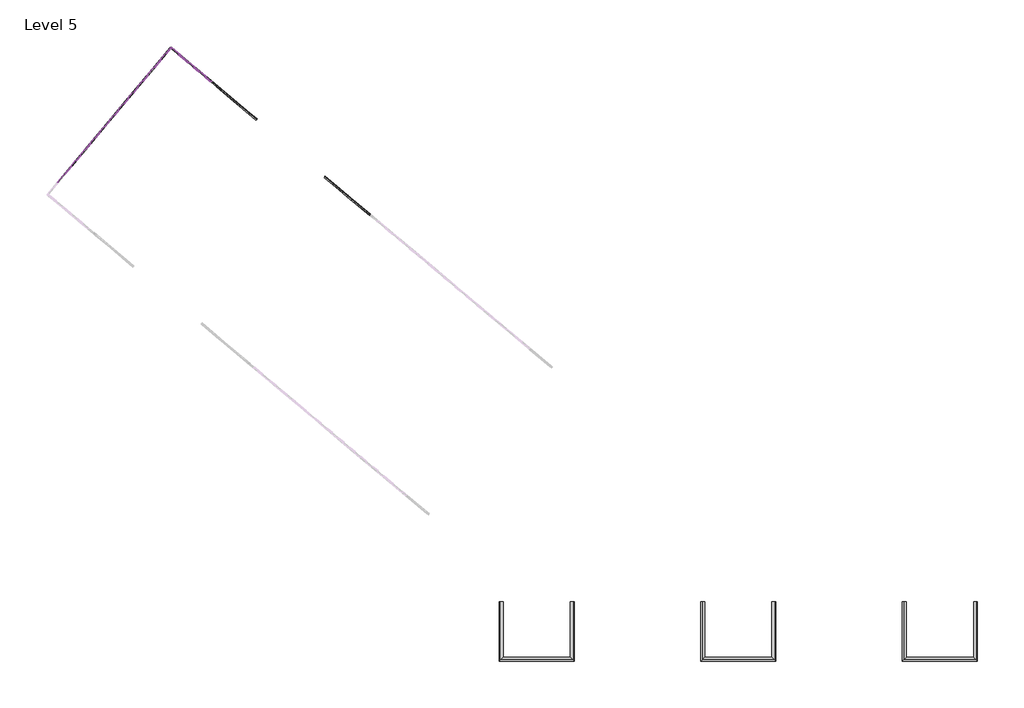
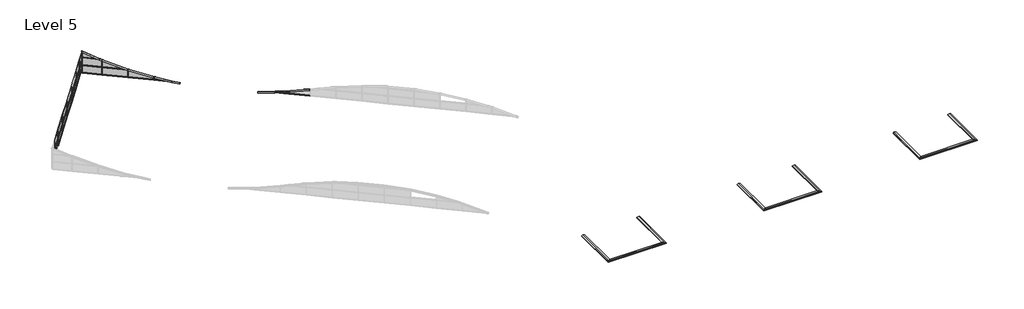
# One storey, part 3 of 3: 52 members, 23 plates, 9 proxies.
"""IFC4 building model written with IfcOpenShell, lengths in millimetres."""

from ifc_helpers import new_model, si_unit, origin, place, context, project, spatial, faceted_brep, transform, mapped, element, save
from components import member_e6b937b8, member_854372c8, member_18c55287, member_60dc0da7, member_eaba9652, member_7cbddb58, member_117cba67, member_d263b1c0, member_7baf4926, member_8e78e238, member_c6bdffdc, member_080aa8fc, member_387caf8a, member_3e05a51b, member_ec44c6c5, member_40020609, member_f594da15, member_0d4095d7, member_8a14c637, member_d42e4331, member_0d0bfa09, member_a17a7d9a, system_panel_glazed_a2c5a472, system_panel_glazed_ccf48815, system_panel_glazed_3c43611c, system_panel_glazed_c349e88e, system_panel_glazed_182b1a7b, system_panel_glazed_1aefa611, system_panel_glazed_4b868f30, system_panel_glazed_7b8e2228, system_panel_glazed_03d16a12, system_panel_glazed_3832c797, system_panel_glazed_4a746f95

model = new_model("IFC4")

# Units and contexts
model_context = context("Model", 3, world=origin())
ifc_project = project(units=[si_unit("LENGTHUNIT", "METRE", prefix="MILLI")], contexts=[model_context])

# Site, building, storey
site = spatial("IfcSite", under=ifc_project)
building = spatial("IfcBuilding", under=site)
storey = spatial("IfcBuildingStorey", under=building, Name="Level 5", Elevation=12192.0)

# Proxies
placement = place(None, origin())
element("IfcBuildingElementProxy", 1, Name="Wall Sweeps", at=placement, inside=storey, context=model_context, shape_type="Brep", body=[
    faceted_brep([(-12262.1386573, -9429.9629393, 12255.5), (-12262.1386573, -9429.9629393, 12192.0), (-12290.7136573, -9429.9629393, 12192.0), (-12643.1386573, -9429.9629393, 12192.0), (-12668.5386573, -9429.9629393, 12192.0), (-12668.5386573, -9429.9629393, 12255.5), (-12541.5386573, -9429.9629393, 12293.6), (-12262.1386573, -15144.9629393, 12255.5), (-12541.5386573, -15424.3629393, 12293.6), (-12668.5386573, -15551.3629393, 12255.5), (-12668.5386573, -15551.3629393, 12192.0), (-12262.1386573, -15144.9629393, 12192.0)], [[[0, 1, 2, 3, 4, 5, 6]], [[7, 8, 9, 10, 11]], [[1, 0, 7, 11]], [[4, 3, 2, 1, 11, 10]], [[5, 4, 10, 9]], [[6, 5, 9, 8]], [[0, 6, 8, 7]]]),
])
element("IfcBuildingElementProxy", 2, Name="Wall Sweeps", at=placement, inside=storey, context=model_context, shape_type="Brep", body=[
    faceted_brep([(-12262.1386573, -15144.9629393, 12255.5), (-12262.1386573, -15144.9629393, 12192.0), (-12668.5386573, -15551.3629393, 12192.0), (-12668.5386573, -15551.3629393, 12255.5), (-12541.5386573, -15424.3629393, 12293.6), (-5356.5136573, -15144.9629393, 12255.5), (-5077.1136573, -15424.3629393, 12293.6), (-4950.1136573, -15551.3629393, 12255.5), (-4950.1136573, -15551.3629393, 12192.0), (-5356.5136573, -15144.9629393, 12192.0)], [[[0, 1, 2, 3, 4]], [[5, 6, 7, 8, 9]], [[1, 0, 5, 9]], [[2, 1, 9, 8]], [[3, 2, 8, 7]], [[4, 3, 7, 6]], [[0, 4, 6, 5]]]),
])
element("IfcBuildingElementProxy", 3, Name="Wall Sweeps", at=placement, inside=storey, context=model_context, shape_type="Brep", body=[
    faceted_brep([(-5356.5136573, -15144.9629393, 12255.5), (-5356.5136573, -15144.9629393, 12192.0), (-4950.1136573, -15551.3629393, 12192.0), (-4950.1136573, -15551.3629393, 12255.5), (-5077.1136573, -15424.3629393, 12293.6), (-5356.5136573, -9429.9629393, 12255.5), (-5077.1136573, -9429.9629393, 12293.6), (-4950.1136573, -9429.9629393, 12255.5), (-4950.1136573, -9429.9629393, 12192.0), (-4975.5136573, -9429.9629393, 12192.0), (-5327.9386573, -9429.9629393, 12192.0), (-5356.5136573, -9429.9629393, 12192.0)], [[[0, 1, 2, 3, 4]], [[5, 6, 7, 8, 9, 10, 11]], [[1, 0, 5, 11]], [[2, 1, 11, 10, 9, 8]], [[3, 2, 8, 7]], [[4, 3, 7, 6]], [[0, 4, 6, 5]]]),
])
element("IfcBuildingElementProxy", 4, Name="Wall Sweeps", at=placement, inside=storey, context=model_context, shape_type="Brep", body=[
    faceted_brep([(8464.2613427, -9429.9629393, 12255.5), (8464.2613427, -9429.9629393, 12192.0), (8057.8613427, -9429.9629393, 12192.0), (8057.8613427, -9429.9629393, 12255.5), (8184.8613427, -9429.9629393, 12293.6), (8464.2613427, -15144.9629393, 12255.5), (8184.8613427, -15424.3629393, 12293.6), (8057.8613427, -15551.3629393, 12255.5), (8057.8613427, -15551.3629393, 12192.0), (8464.2613427, -15144.9629393, 12192.0)], [[[0, 1, 2, 3, 4]], [[5, 6, 7, 8, 9]], [[1, 0, 5, 9]], [[2, 1, 9, 8]], [[3, 2, 8, 7]], [[4, 3, 7, 6]], [[0, 4, 6, 5]]]),
])
element("IfcBuildingElementProxy", 5, Name="Wall Sweeps", at=placement, inside=storey, context=model_context, shape_type="Brep", body=[
    faceted_brep([(8464.2613427, -15144.9629393, 12255.5), (8464.2613427, -15144.9629393, 12192.0), (8057.8613427, -15551.3629393, 12192.0), (8057.8613427, -15551.3629393, 12255.5), (8184.8613427, -15424.3629393, 12293.6), (15369.8863427, -15144.9629393, 12255.5), (15649.2863427, -15424.3629393, 12293.6), (15776.2863427, -15551.3629393, 12255.5), (15776.2863427, -15551.3629393, 12192.0), (15369.8863427, -15144.9629393, 12192.0)], [[[0, 1, 2, 3, 4]], [[5, 6, 7, 8, 9]], [[1, 0, 5, 9]], [[2, 1, 9, 8]], [[3, 2, 8, 7]], [[4, 3, 7, 6]], [[0, 4, 6, 5]]]),
])
element("IfcBuildingElementProxy", 6, Name="Wall Sweeps", at=placement, inside=storey, context=model_context, shape_type="Brep", body=[
    faceted_brep([(15369.8863427, -15144.9629393, 12255.5), (15369.8863427, -15144.9629393, 12192.0), (15776.2863427, -15551.3629393, 12192.0), (15776.2863427, -15551.3629393, 12255.5), (15649.2863427, -15424.3629393, 12293.6), (15369.8863427, -9429.9629393, 12255.5), (15649.2863427, -9429.9629393, 12293.6), (15776.2863427, -9429.9629393, 12255.5), (15776.2863427, -9429.9629393, 12192.0), (15369.8863427, -9429.9629393, 12192.0)], [[[0, 1, 2, 3, 4]], [[5, 6, 7, 8, 9]], [[1, 0, 5, 9]], [[2, 1, 9, 8]], [[3, 2, 8, 7]], [[4, 3, 7, 6]], [[0, 4, 6, 5]]]),
])
element("IfcBuildingElementProxy", 7, Name="Wall Sweeps", at=placement, inside=storey, context=model_context, shape_type="Brep", body=[
    faceted_brep([(29190.6613427, -9429.9629393, 12255.5), (29190.6613427, -9429.9629393, 12192.0), (29162.0863427, -9429.9629393, 12192.0), (28809.6613427, -9429.9629393, 12192.0), (28784.2613427, -9429.9629393, 12192.0), (28784.2613427, -9429.9629393, 12255.5), (28911.2613427, -9429.9629393, 12293.6), (29190.6613427, -15144.9629393, 12255.5), (28911.2613427, -15424.3629393, 12293.6), (28784.2613427, -15551.3629393, 12255.5), (28784.2613427, -15551.3629393, 12192.0), (29190.6613427, -15144.9629393, 12192.0)], [[[0, 1, 2, 3, 4, 5, 6]], [[7, 8, 9, 10, 11]], [[1, 0, 7, 11]], [[4, 3, 2, 1, 11, 10]], [[5, 4, 10, 9]], [[6, 5, 9, 8]], [[0, 6, 8, 7]]]),
])
element("IfcBuildingElementProxy", 8, Name="Wall Sweeps", at=placement, inside=storey, context=model_context, shape_type="Brep", body=[
    faceted_brep([(29190.6613427, -15144.9629393, 12255.5), (29190.6613427, -15144.9629393, 12192.0), (28784.2613427, -15551.3629393, 12192.0), (28784.2613427, -15551.3629393, 12255.5), (28911.2613427, -15424.3629393, 12293.6), (36096.2863427, -15144.9629393, 12255.5), (36375.6863427, -15424.3629393, 12293.6), (36502.6863427, -15551.3629393, 12255.5), (36502.6863427, -15551.3629393, 12192.0), (36096.2863427, -15144.9629393, 12192.0)], [[[0, 1, 2, 3, 4]], [[5, 6, 7, 8, 9]], [[1, 0, 5, 9]], [[2, 1, 9, 8]], [[3, 2, 8, 7]], [[4, 3, 7, 6]], [[0, 4, 6, 5]]]),
])
element("IfcBuildingElementProxy", 9, Name="Wall Sweeps", at=placement, inside=storey, context=model_context, shape_type="Brep", body=[
    faceted_brep([(36096.2863427, -15144.9629393, 12255.5), (36096.2863427, -15144.9629393, 12192.0), (36502.6863427, -15551.3629393, 12192.0), (36502.6863427, -15551.3629393, 12255.5), (36375.6863427, -15424.3629393, 12293.6), (36096.2863427, -9429.9629393, 12255.5), (36375.6863427, -9429.9629393, 12293.6), (36502.6863427, -9429.9629393, 12255.5), (36502.6863427, -9429.9629393, 12192.0), (36477.2863427, -9429.9629393, 12192.0), (36124.8613427, -9429.9629393, 12192.0), (36096.2863427, -9429.9629393, 12192.0)], [[[0, 1, 2, 3, 4]], [[5, 6, 7, 8, 9, 10, 11]], [[1, 0, 5, 11]], [[2, 1, 11, 10, 9, 8]], [[3, 2, 8, 7]], [[4, 3, 7, 6]], [[0, 4, 6, 5]]]),
])

# Members
member_shape = member_e6b937b8(model_context)
element("IfcMember", 10, ObjectType="Rectangular Mullion : 1.5\" x 2.5\" rectangular", at=placement, inside=storey, context=model_context, shape_type="MappedRepresentation", body=[
    mapped(member_shape, transform((-58047.6752037, 33669.3461699, 14221.6974171), x_axis=(0.6427876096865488, 0.7660444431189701, 0.0), y_axis=(-0.7660444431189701, 0.6427876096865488, 0.0), z_axis=(0.0, 0.0, 1.0))),
])
element("IfcMember", 11, ObjectType="Rectangular Mullion : 1.5\" x 2.5\" rectangular", at=placement, inside=storey, context=model_context, shape_type="MappedRepresentation", body=[
    mapped(member_shape, transform((-56676.2235597, 35303.7785937, 14221.6974171), x_axis=(0.6427876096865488, 0.7660444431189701, 0.0), y_axis=(-0.7660444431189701, 0.6427876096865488, 0.0), z_axis=(0.0, 0.0, 1.0))),
])
element("IfcMember", 12, ObjectType="Rectangular Mullion : 1.5\" x 2.5\" rectangular", at=placement, inside=storey, context=model_context, shape_type="MappedRepresentation", body=[
    mapped(member_shape, transform((-54717.0069254, 37638.6820564, 14221.6974171), x_axis=(0.6427876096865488, 0.7660444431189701, 0.0), y_axis=(-0.7660444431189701, 0.6427876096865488, 0.0), z_axis=(0.0, 0.0, 1.0))),
])
element("IfcMember", 13, ObjectType="Rectangular Mullion : 1.5\" x 2.5\" rectangular", at=placement, inside=storey, context=model_context, shape_type="MappedRepresentation", body=[
    mapped(member_shape, transform((-52757.790291, 39973.585519, 14221.6974171), x_axis=(0.6427876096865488, 0.7660444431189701, 0.0), y_axis=(-0.7660444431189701, 0.6427876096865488, 0.0), z_axis=(0.0, 0.0, 1.0))),
])
element("IfcMember", 14, ObjectType="Rectangular Mullion : 1.5\" x 2.5\" rectangular", at=placement, inside=storey, context=model_context, shape_type="MappedRepresentation", body=[
    mapped(member_shape, transform((-50798.5736567, 42308.4889816, 14221.6974171), x_axis=(0.6427876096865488, 0.7660444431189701, 0.0), y_axis=(-0.7660444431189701, 0.6427876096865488, 0.0), z_axis=(0.0, 0.0, 1.0))),
])
element("IfcMember", 15, ObjectType="Rectangular Mullion : 1.5\" x 2.5\" rectangular", at=placement, inside=storey, context=model_context, shape_type="MappedRepresentation", body=[
    mapped(member_shape, transform((-48839.3570224, 44643.3924442, 14221.6974171), x_axis=(0.6427876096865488, 0.7660444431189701, 0.0), y_axis=(-0.7660444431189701, 0.6427876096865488, 0.0), z_axis=(0.0, 0.0, 1.0))),
])
element("IfcMember", 16, ObjectType="Rectangular Mullion : 1.5\" x 2.5\" rectangular", at=placement, inside=storey, context=model_context, shape_type="MappedRepresentation", body=[
    mapped(member_shape, transform((-58047.6752037, 33669.3461699, 15288.4974171), x_axis=(0.6427876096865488, 0.7660444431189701, 0.0), y_axis=(-0.7660444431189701, 0.6427876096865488, 0.0), z_axis=(0.0, 0.0, 1.0))),
])
element("IfcMember", 17, ObjectType="Rectangular Mullion : 1.5\" x 2.5\" rectangular", at=placement, inside=storey, context=model_context, shape_type="MappedRepresentation", body=[
    mapped(member_shape, transform((-56676.2235597, 35303.7785937, 15288.4974171), x_axis=(0.6427876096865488, 0.7660444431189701, 0.0), y_axis=(-0.7660444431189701, 0.6427876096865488, 0.0), z_axis=(0.0, 0.0, 1.0))),
])
element("IfcMember", 18, ObjectType="Rectangular Mullion : 1.5\" x 2.5\" rectangular", at=placement, inside=storey, context=model_context, shape_type="MappedRepresentation", body=[
    mapped(member_shape, transform((-54717.0069254, 37638.6820564, 15288.4974171), x_axis=(0.6427876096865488, 0.7660444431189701, 0.0), y_axis=(-0.7660444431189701, 0.6427876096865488, 0.0), z_axis=(0.0, 0.0, 1.0))),
])
element("IfcMember", 19, ObjectType="Rectangular Mullion : 1.5\" x 2.5\" rectangular", at=placement, inside=storey, context=model_context, shape_type="MappedRepresentation", body=[
    mapped(member_shape, transform((-52757.790291, 39973.585519, 15288.4974171), x_axis=(0.6427876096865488, 0.7660444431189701, 0.0), y_axis=(-0.7660444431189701, 0.6427876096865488, 0.0), z_axis=(0.0, 0.0, 1.0))),
])
element("IfcMember", 20, ObjectType="Rectangular Mullion : 1.5\" x 2.5\" rectangular", at=placement, inside=storey, context=model_context, shape_type="MappedRepresentation", body=[
    mapped(member_shape, transform((-50798.5736567, 42308.4889816, 15288.4974171), x_axis=(0.6427876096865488, 0.7660444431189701, 0.0), y_axis=(-0.7660444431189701, 0.6427876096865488, 0.0), z_axis=(0.0, 0.0, 1.0))),
])
element("IfcMember", 21, ObjectType="Rectangular Mullion : 1.5\" x 2.5\" rectangular", at=placement, inside=storey, context=model_context, shape_type="MappedRepresentation", body=[
    mapped(member_shape, transform((-48839.3570224, 44643.3924442, 15288.4974171), x_axis=(0.6427876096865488, 0.7660444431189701, 0.0), y_axis=(-0.7660444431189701, 0.6427876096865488, 0.0), z_axis=(0.0, 0.0, 1.0))),
])
element("IfcMember", 22, ObjectType="Rectangular Mullion : 1.5\" x 2.5\" rectangular", at=placement, inside=storey, context=model_context, shape_type="MappedRepresentation", body=[
    mapped(member_shape, transform((-44606.1504378, 46018.2846161, 13601.1444177), x_axis=(0.76604444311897, -0.6427876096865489, 0.0), y_axis=(0.6427876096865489, 0.76604444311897, 0.0), z_axis=(0.0, 0.0, 1.0))),
])
element("IfcMember", 23, ObjectType="Rectangular Mullion : 1.5\" x 2.5\" rectangular", at=placement, inside=storey, context=model_context, shape_type="MappedRepresentation", body=[
    mapped(member_shape, transform((-42271.2469751, 44059.0679818, 13601.1444177), x_axis=(0.76604444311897, -0.6427876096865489, 0.0), y_axis=(0.6427876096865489, 0.76604444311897, 0.0), z_axis=(0.0, 0.0, 1.0))),
])
element("IfcMember", 24, ObjectType="Rectangular Mullion : 1.5\" x 2.5\" rectangular", at=placement, inside=storey, context=model_context, shape_type="MappedRepresentation", body=[
    mapped(member_shape, transform((-47467.9053784, 46277.8248681, 14221.6974171), x_axis=(0.6427876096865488, 0.7660444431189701, 0.0), y_axis=(-0.7660444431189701, 0.6427876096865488, 0.0), z_axis=(0.0, 0.0, 1.0))),
])
element("IfcMember", 25, ObjectType="Rectangular Mullion : 1.5\" x 2.5\" rectangular", at=placement, inside=storey, context=model_context, shape_type="MappedRepresentation", body=[
    mapped(member_shape, transform((-47467.9053784, 46277.8248681, 15288.4974171), x_axis=(0.6427876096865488, 0.7660444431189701, 0.0), y_axis=(-0.7660444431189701, 0.6427876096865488, 0.0), z_axis=(0.0, 0.0, 1.0))),
])
member_2_shape = member_854372c8(model_context)
element("IfcMember", 26, ObjectType="Rectangular Mullion : 1.5\" x 2.5\" rectangular", at=placement, inside=storey, context=model_context, shape_type="MappedRepresentation", body=[
    mapped(member_2_shape, transform((-44606.1504378, 46018.2846161, 14599.6362575), x_axis=(0.76604444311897, -0.6427876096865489, 0.0), y_axis=(0.6427876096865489, 0.76604444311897, 0.0), z_axis=(0.0, 0.0, 1.0))),
])
member_3_shape = member_18c55287(model_context)
element("IfcMember", 27, ObjectType="Rectangular Mullion : 1.5\" x 2.5\" rectangular", at=placement, inside=storey, context=model_context, shape_type="MappedRepresentation", body=[
    mapped(member_3_shape, transform((-39936.3435125, 42099.8513475, 12923.5732706), x_axis=(0.76604444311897, -0.6427876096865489, 0.0), y_axis=(0.6427876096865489, 0.76604444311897, 0.0), z_axis=(0.0, 0.0, 1.0))),
])
member_4_shape = member_60dc0da7(model_context)
element("IfcMember", 28, ObjectType="Rectangular Mullion : 1.5\" x 2.5\" rectangular", at=placement, inside=storey, context=model_context, shape_type="MappedRepresentation", body=[
    mapped(member_4_shape, transform((-28261.8261994, 32303.7681758, 12733.2673495), x_axis=(0.76604444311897, -0.6427876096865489, 0.0), y_axis=(0.6427876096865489, 0.76604444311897, 0.0), z_axis=(0.0, 0.0, 1.0))),
])
member_5_shape = member_eaba9652(model_context)
element("IfcMember", 29, ObjectType="Rectangular Mullion : 2.5\" x 5\" rectangular", at=placement, inside=storey, context=model_context, shape_type="MappedRepresentation", body=[
    mapped(member_5_shape, transform((-56676.2235597, 35303.7785937, 13186.6474171), x_axis=(0.0, 0.0, 1.0), y_axis=(-0.7660444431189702, 0.6427876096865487, 0.0), z_axis=(-0.6427876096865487, -0.7660444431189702, 0.0))),
])
element("IfcMember", 30, ObjectType="Rectangular Mullion : 2.5\" x 5\" rectangular", at=placement, inside=storey, context=model_context, shape_type="MappedRepresentation", body=[
    mapped(member_5_shape, transform((-54717.0069254, 37638.6820564, 13186.6474171), x_axis=(0.0, 0.0, 1.0), y_axis=(-0.76604444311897, 0.642787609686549, 0.0), z_axis=(-0.6427876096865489, -0.7660444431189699, 0.0))),
])
element("IfcMember", 31, ObjectType="Rectangular Mullion : 2.5\" x 5\" rectangular", at=placement, inside=storey, context=model_context, shape_type="MappedRepresentation", body=[
    mapped(member_5_shape, transform((-52757.790291, 39973.585519, 13186.6474171), x_axis=(0.0, 0.0, 1.0), y_axis=(-0.76604444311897, 0.642787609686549, 0.0), z_axis=(-0.6427876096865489, -0.7660444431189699, 0.0))),
])
element("IfcMember", 32, ObjectType="Rectangular Mullion : 2.5\" x 5\" rectangular", at=placement, inside=storey, context=model_context, shape_type="MappedRepresentation", body=[
    mapped(member_5_shape, transform((-50798.5736567, 42308.4889816, 13186.6474171), x_axis=(0.0, 0.0, 1.0), y_axis=(-0.766044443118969, 0.64278760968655, 0.0), z_axis=(-0.64278760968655, -0.766044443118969, 0.0))),
])
element("IfcMember", 33, ObjectType="Rectangular Mullion : 2.5\" x 5\" rectangular", at=placement, inside=storey, context=model_context, shape_type="MappedRepresentation", body=[
    mapped(member_5_shape, transform((-56676.2235597, 35303.7785937, 14253.4474171), x_axis=(0.0, 0.0, 1.0), y_axis=(-0.7660444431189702, 0.6427876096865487, 0.0), z_axis=(-0.6427876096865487, -0.7660444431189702, 0.0))),
])
element("IfcMember", 34, ObjectType="Rectangular Mullion : 2.5\" x 5\" rectangular", at=placement, inside=storey, context=model_context, shape_type="MappedRepresentation", body=[
    mapped(member_5_shape, transform((-54717.0069254, 37638.6820564, 14253.4474171), x_axis=(0.0, 0.0, 1.0), y_axis=(-0.76604444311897, 0.642787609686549, 0.0), z_axis=(-0.6427876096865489, -0.7660444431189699, 0.0))),
])
element("IfcMember", 35, ObjectType="Rectangular Mullion : 2.5\" x 5\" rectangular", at=placement, inside=storey, context=model_context, shape_type="MappedRepresentation", body=[
    mapped(member_5_shape, transform((-52757.790291, 39973.585519, 14253.4474171), x_axis=(0.0, 0.0, 1.0), y_axis=(-0.76604444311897, 0.642787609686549, 0.0), z_axis=(-0.6427876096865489, -0.7660444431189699, 0.0))),
])
element("IfcMember", 36, ObjectType="Rectangular Mullion : 2.5\" x 5\" rectangular", at=placement, inside=storey, context=model_context, shape_type="MappedRepresentation", body=[
    mapped(member_5_shape, transform((-50798.5736567, 42308.4889816, 14253.4474171), x_axis=(0.0, 0.0, 1.0), y_axis=(-0.766044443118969, 0.64278760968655, 0.0), z_axis=(-0.64278760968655, -0.766044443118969, 0.0))),
])
element("IfcMember", 37, ObjectType="Rectangular Mullion : 2.5\" x 5\" rectangular", at=placement, inside=storey, context=model_context, shape_type="MappedRepresentation", body=[
    mapped(member_5_shape, transform((-28261.8261994, 32303.7681758, 12566.0944177), x_axis=(0.0, 0.0, 1.0), y_axis=(0.6427876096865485, 0.7660444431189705, 0.0), z_axis=(-0.7660444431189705, 0.6427876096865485, 0.0))),
])
element("IfcMember", 38, ObjectType="Rectangular Mullion : 2.5\" x 5\" rectangular", at=placement, inside=storey, context=model_context, shape_type="MappedRepresentation", body=[
    mapped(member_5_shape, transform((-44606.1504378, 46018.2846161, 12566.0944177), x_axis=(0.0, 0.0, 1.0), y_axis=(0.6427876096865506, 0.7660444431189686, 0.0), z_axis=(-0.7660444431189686, 0.6427876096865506, 0.0))),
])
element("IfcMember", 39, ObjectType="Rectangular Mullion : 2.5\" x 5\" rectangular", at=placement, inside=storey, context=model_context, shape_type="MappedRepresentation", body=[
    mapped(member_5_shape, transform((-42271.2469751, 44059.0679818, 12566.0944177), x_axis=(0.0, 0.0, 1.0), y_axis=(0.6427876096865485, 0.7660444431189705, 0.0), z_axis=(-0.7660444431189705, 0.6427876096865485, 0.0))),
])
member_6_shape = member_7cbddb58(model_context)
element("IfcMember", 40, ObjectType="Rectangular Mullion : 2.5\" x 5\" rectangular", at=placement, inside=storey, context=model_context, shape_type="MappedRepresentation", body=[
    mapped(member_6_shape, transform((-48839.3570224, 44643.3924442, 13186.6474171), x_axis=(0.0, 0.0, 1.0), y_axis=(-0.766044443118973, 0.6427876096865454, 0.0), z_axis=(-0.6427876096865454, -0.766044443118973, 0.0))),
])
element("IfcMember", 41, ObjectType="Rectangular Mullion : 2.5\" x 5\" rectangular", at=placement, inside=storey, context=model_context, shape_type="MappedRepresentation", body=[
    mapped(member_6_shape, transform((-58047.6752037, 33669.3461699, 14253.4474171), x_axis=(0.0, 0.0, 1.0), y_axis=(-0.766044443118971, 0.6427876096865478, 0.0), z_axis=(-0.6427876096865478, -0.766044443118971, 0.0))),
])
element("IfcMember", 42, ObjectType="Rectangular Mullion : 2.5\" x 5\" rectangular", at=placement, inside=storey, context=model_context, shape_type="MappedRepresentation", body=[
    mapped(member_6_shape, transform((-48839.3570224, 44643.3924442, 14253.4474171), x_axis=(0.0, 0.0, 1.0), y_axis=(-0.766044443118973, 0.6427876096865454, 0.0), z_axis=(-0.6427876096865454, -0.766044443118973, 0.0))),
])
member_7_shape = member_117cba67(model_context)
element("IfcMember", 43, ObjectType="Rectangular Mullion : 2.5\" x 5\" rectangular", at=placement, inside=storey, context=model_context, shape_type="MappedRepresentation", body=[
    mapped(member_7_shape, transform((-47467.9053784, 46277.8248681, 13186.6474171), x_axis=(0.0, 0.0, 1.0), y_axis=(-0.766044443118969, 0.6427876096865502, 0.0), z_axis=(-0.6427876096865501, -0.7660444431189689, 0.0))),
])
element("IfcMember", 44, ObjectType="Rectangular Mullion : 2.5\" x 5\" rectangular", at=placement, inside=storey, context=model_context, shape_type="MappedRepresentation", body=[
    mapped(member_7_shape, transform((-47467.9053784, 46277.8248681, 14253.4474171), x_axis=(0.0, 0.0, 1.0), y_axis=(-0.766044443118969, 0.6427876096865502, 0.0), z_axis=(-0.6427876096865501, -0.7660444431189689, 0.0))),
])
member_8_shape = member_d263b1c0(model_context)
element("IfcMember", 45, ObjectType="Rectangular Mullion : 2.5\" x 5\" rectangular", at=placement, inside=storey, context=model_context, shape_type="MappedRepresentation", body=[
    mapped(member_8_shape, transform((-29076.8622717, 32987.6646435, 12566.0944177), x_axis=(0.0, 0.0, 1.0), y_axis=(0.6427876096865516, 0.7660444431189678, 0.0), z_axis=(-0.7660444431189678, 0.6427876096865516, 0.0))),
])
member_9_shape = member_7baf4926(model_context)
element("IfcMember", 46, ObjectType="Rectangular Mullion : 2.5\" x 5\" rectangular", at=placement, inside=storey, context=model_context, shape_type="MappedRepresentation", body=[
    mapped(member_9_shape, transform((-39936.3435125, 42099.8513475, 12566.0944177), x_axis=(0.0, 0.0, 1.0), y_axis=(0.6427876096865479, 0.7660444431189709, 0.0), z_axis=(-0.7660444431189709, 0.6427876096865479, 0.0))),
])
member_10_shape = member_8e78e238(model_context)
element("IfcMember", 47, ObjectType="Rectangular Mullion : 2.5\" x 5\" rectangular", at=placement, inside=storey, context=model_context, shape_type="MappedRepresentation", body=[
    mapped(member_10_shape, transform((-46340.3300662, 47473.4341027, 12566.0944177), x_axis=(0.0, 0.0, 1.0), y_axis=(0.6427876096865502, 0.7660444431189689, 0.0), z_axis=(-0.7660444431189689, 0.6427876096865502, 0.0))),
])
element("IfcMember", 48, ObjectType="Rectangular Mullion : 2.5\" x 5\" rectangular", at=placement, inside=storey, context=model_context, shape_type="MappedRepresentation", body=[
    mapped(member_10_shape, transform((-46340.3300662, 47473.4341027, 13632.8944177), x_axis=(0.0, 0.0, 1.0), y_axis=(0.6427876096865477, 0.7660444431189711, 0.0), z_axis=(-0.766044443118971, 0.6427876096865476, 0.0))),
])
member_11_shape = member_c6bdffdc(model_context)
element("IfcMember", 49, ObjectType="Rectangular Mullion : 2.5\" x 5\" rectangular", at=placement, inside=storey, context=model_context, shape_type="MappedRepresentation", body=[
    mapped(member_11_shape, transform((-46340.3300662, 47473.4341027, 14699.6944177), x_axis=(0.0, 0.0, 1.0), y_axis=(0.6427876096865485, 0.7660444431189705, 0.0), z_axis=(-0.7660444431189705, 0.6427876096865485, 0.0))),
])
member_12_shape = member_080aa8fc(model_context)
element("IfcMember", 50, ObjectType="Rectangular Mullion : 2.5\" x 5\" rectangular", at=placement, inside=storey, context=model_context, shape_type="MappedRepresentation", body=[
    mapped(member_12_shape, transform((-44606.1504378, 46018.2846161, 13632.8944177), x_axis=(0.0, 0.0, 1.0), y_axis=(0.6427876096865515, 0.7660444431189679, 0.0), z_axis=(-0.7660444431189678, 0.6427876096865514, 0.0))),
])
member_13_shape = member_387caf8a(model_context)
element("IfcMember", 51, ObjectType="V Corner Mullion : 5\" V Corner", at=placement, inside=storey, context=model_context, shape_type="MappedRepresentation", body=[
    mapped(member_13_shape, transform((-46413.2957994, 47534.6596226, 14253.4474171), x_axis=(0.6427876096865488, 0.7660444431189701, 0.0), y_axis=(-0.7660444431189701, 0.6427876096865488, 0.0), z_axis=(0.0, 0.0, 1.0))),
])
element("IfcMember", 52, ObjectType="V Corner Mullion : 5\" V Corner", at=placement, inside=storey, context=model_context, shape_type="MappedRepresentation", body=[
    mapped(member_13_shape, transform((-46413.2957994, 47534.6596226, 15320.2474171), x_axis=(0.6427876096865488, 0.7660444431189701, 0.0), y_axis=(-0.7660444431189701, 0.6427876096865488, 0.0), z_axis=(0.0, 0.0, 1.0))),
])
member_14_shape = member_3e05a51b(model_context)
element("IfcMember", 53, ObjectType="V Corner Mullion : 5\" V Corner", at=placement, inside=storey, context=model_context, shape_type="MappedRepresentation", body=[
    mapped(member_14_shape, transform((-39936.3435125, 42099.8513475, 12923.5732706), x_axis=(0.12834516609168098, -0.10769438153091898, 0.9858648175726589), y_axis=(0.642787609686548, 0.7660444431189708, 0.0), z_axis=(-0.7552162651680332, 0.633701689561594, 0.16754271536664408))),
])
member_15_shape = member_ec44c6c5(model_context)
element("IfcMember", 54, ObjectType="V Corner Mullion : 5\" V Corner", at=placement, inside=storey, context=model_context, shape_type="MappedRepresentation", body=[
    mapped(member_15_shape, transform((-30596.729662, 34262.9848102, 12327.8399655), x_axis=(-0.09133437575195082, 0.07663864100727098, 0.9928668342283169), y_axis=(0.6427876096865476, 0.7660444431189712, 0.0), z_axis=(-0.7605801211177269, 0.6382024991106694, -0.11922855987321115))),
])
member_16_shape = member_40020609(model_context)
element("IfcMember", 55, ObjectType="V Corner Mullion : 5\" V Corner", at=placement, inside=storey, context=model_context, shape_type="MappedRepresentation", body=[
    mapped(member_16_shape, transform((-28261.8261994, 32303.7681758, 12733.2673495), x_axis=(-0.15621785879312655, 0.13108234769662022, 0.978985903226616), y_axis=(0.6427876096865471, 0.7660444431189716, 0.0), z_axis=(-0.7499467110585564, 0.6292800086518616, -0.20392793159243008))),
])
member_17_shape = member_f594da15(model_context)
element("IfcMember", 56, ObjectType="V Corner Mullion : 5\" V Corner", at=placement, inside=storey, context=model_context, shape_type="MappedRepresentation", body=[
    mapped(member_17_shape, transform((-38324.9702959, 40747.7486757, 12566.0944177), x_axis=(0.10072402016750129, -0.08451748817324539, 0.9913180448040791), y_axis=(0.6427876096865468, 0.7660444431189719, 0.0), z_axis=(-0.7593936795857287, 0.6372069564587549, 0.13148587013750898))),
])
member_18_shape = member_0d4095d7(model_context)
element("IfcMember", 57, ObjectType="V Corner Mullion : 5\" V Corner", at=placement, inside=storey, context=model_context, shape_type="MappedRepresentation", body=[
    mapped(member_18_shape, transform((-29076.8622717, 32987.6646435, 12566.0944177), x_axis=(-0.1189053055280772, 0.09977339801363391, 0.9878799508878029), y_axis=(0.6427876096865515, 0.7660444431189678, 0.0), z_axis=(-0.7567599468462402, 0.6349969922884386, -0.1552198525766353))),
])
member_19_shape = member_8a14c637(model_context)
element("IfcMember", 58, ObjectType="V Corner Mullion : 5\" V Corner", at=placement, inside=storey, context=model_context, shape_type="MappedRepresentation", body=[
    mapped(member_19_shape, transform((-44818.3939349, 46196.3780562, 14699.6944177), x_axis=(0.2601993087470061, -0.21833314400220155, 0.9405460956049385), y_axis=(0.6427876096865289, 0.7660444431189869, 0.0), z_axis=(-0.7205001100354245, 0.6045713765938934, 0.3396660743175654))),
])
member_20_shape = member_d42e4331(model_context)
element("IfcMember", 59, ObjectType="V Corner Mullion : 5\" V Corner", at=placement, inside=storey, context=model_context, shape_type="MappedRepresentation", body=[
    mapped(member_20_shape, transform((-46413.2957994, 47534.6596226, 15522.824296), x_axis=(0.2816474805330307, -0.23633029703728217, 0.9299584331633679), y_axis=(0.6427876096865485, 0.7660444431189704, 0.0), z_axis=(-0.7123894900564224, 0.597765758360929, 0.3676646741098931))),
])
member_21_shape = member_0d0bfa09(model_context)
element("IfcMember", 60, ObjectType="V Corner Mullion : 5\" V Corner", at=placement, inside=storey, context=model_context, shape_type="MappedRepresentation", body=[
    mapped(member_21_shape, transform((-44606.1504378, 46018.2846161, 14599.6362575), x_axis=(0.23026733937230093, -0.1932172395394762, 0.9537526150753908), y_axis=(0.6427876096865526, 0.766044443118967, 0.0), z_axis=(-0.7306168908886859, 0.6130603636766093, 0.3005926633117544))),
])
member_22_shape = member_a17a7d9a(model_context)
element("IfcMember", 61, ObjectType="V Corner Mullion : 5\" V Corner", at=placement, inside=storey, context=model_context, shape_type="MappedRepresentation", body=[
    mapped(member_22_shape, transform((-42254.1576116, 44044.7283031, 13632.8944177), x_axis=(0.1748455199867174, -0.14671281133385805, 0.9736038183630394), y_axis=(0.6427876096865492, 0.7660444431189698, 0.0), z_axis=(-0.745823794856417, 0.6258204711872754, 0.22824461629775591))),
])

# Plates
system_panel_glazed_shape = system_panel_glazed_a2c5a472(model_context)
element("IfcPlate", 62, ObjectType="System Panel : Glazed", at=placement, inside=storey, context=model_context, shape_type="MappedRepresentation", body=[
    mapped(system_panel_glazed_shape, transform((-43438.6987064, 45038.6762989, 12597.8444177), x_axis=(0.76604444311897, -0.6427876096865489, 0.0), y_axis=(0.6427876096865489, 0.76604444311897, 0.0), z_axis=(0.0, 0.0, 1.0))),
])
element("IfcPlate", 63, ObjectType="System Panel : Glazed", at=placement, inside=storey, context=model_context, shape_type="MappedRepresentation", body=[
    mapped(system_panel_glazed_shape, transform((-55696.6152425, 36471.230325, 13218.3974171), x_axis=(0.6427876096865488, 0.7660444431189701, 0.0), y_axis=(-0.7660444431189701, 0.6427876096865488, 0.0), z_axis=(0.0, 0.0, 1.0))),
])
element("IfcPlate", 64, ObjectType="System Panel : Glazed", at=placement, inside=storey, context=model_context, shape_type="MappedRepresentation", body=[
    mapped(system_panel_glazed_shape, transform((-53737.3986082, 38806.1337877, 13218.3974171), x_axis=(0.6427876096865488, 0.7660444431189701, 0.0), y_axis=(-0.7660444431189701, 0.6427876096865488, 0.0), z_axis=(0.0, 0.0, 1.0))),
])
element("IfcPlate", 65, ObjectType="System Panel : Glazed", at=placement, inside=storey, context=model_context, shape_type="MappedRepresentation", body=[
    mapped(system_panel_glazed_shape, transform((-51778.1819739, 41141.0372503, 13218.3974171), x_axis=(0.6427876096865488, 0.7660444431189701, 0.0), y_axis=(-0.7660444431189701, 0.6427876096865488, 0.0), z_axis=(0.0, 0.0, 1.0))),
])
element("IfcPlate", 66, ObjectType="System Panel : Glazed", at=placement, inside=storey, context=model_context, shape_type="MappedRepresentation", body=[
    mapped(system_panel_glazed_shape, transform((-49818.9653396, 43475.9407129, 13218.3974171), x_axis=(0.6427876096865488, 0.7660444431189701, 0.0), y_axis=(-0.7660444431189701, 0.6427876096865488, 0.0), z_axis=(0.0, 0.0, 1.0))),
])
element("IfcPlate", 67, ObjectType="System Panel : Glazed", at=placement, inside=storey, context=model_context, shape_type="MappedRepresentation", body=[
    mapped(system_panel_glazed_shape, transform((-55696.6152425, 36471.230325, 14285.1974171), x_axis=(0.6427876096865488, 0.7660444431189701, 0.0), y_axis=(-0.7660444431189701, 0.6427876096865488, 0.0), z_axis=(0.0, 0.0, 1.0))),
])
element("IfcPlate", 68, ObjectType="System Panel : Glazed", at=placement, inside=storey, context=model_context, shape_type="MappedRepresentation", body=[
    mapped(system_panel_glazed_shape, transform((-53737.3986082, 38806.1337877, 14285.1974171), x_axis=(0.6427876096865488, 0.7660444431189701, 0.0), y_axis=(-0.7660444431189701, 0.6427876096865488, 0.0), z_axis=(0.0, 0.0, 1.0))),
])
element("IfcPlate", 69, ObjectType="System Panel : Glazed", at=placement, inside=storey, context=model_context, shape_type="MappedRepresentation", body=[
    mapped(system_panel_glazed_shape, transform((-51778.1819739, 41141.0372503, 14285.1974171), x_axis=(0.6427876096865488, 0.7660444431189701, 0.0), y_axis=(-0.7660444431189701, 0.6427876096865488, 0.0), z_axis=(0.0, 0.0, 1.0))),
])
element("IfcPlate", 70, ObjectType="System Panel : Glazed", at=placement, inside=storey, context=model_context, shape_type="MappedRepresentation", body=[
    mapped(system_panel_glazed_shape, transform((-49818.9653396, 43475.9407129, 14285.1974171), x_axis=(0.6427876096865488, 0.7660444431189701, 0.0), y_axis=(-0.7660444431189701, 0.6427876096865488, 0.0), z_axis=(0.0, 0.0, 1.0))),
])
system_panel_glazed_2_shape = system_panel_glazed_ccf48815(model_context)
element("IfcPlate", 71, ObjectType="System Panel : Glazed", at=placement, inside=storey, context=model_context, shape_type="MappedRepresentation", body=[
    mapped(system_panel_glazed_2_shape, transform((-45480.5368253, 46751.9819114, 12597.8444177), x_axis=(0.76604444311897, -0.6427876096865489, 0.0), y_axis=(0.6427876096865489, 0.76604444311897, 0.0), z_axis=(0.0, 0.0, 1.0))),
])
system_panel_glazed_3_shape = system_panel_glazed_3c43611c(model_context)
element("IfcPlate", 72, ObjectType="System Panel : Glazed", at=placement, inside=storey, context=model_context, shape_type="MappedRepresentation", body=[
    mapped(system_panel_glazed_3_shape, transform((-57361.9493817, 34486.5623818, 13218.3974171), x_axis=(0.6427876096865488, 0.7660444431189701, 0.0), y_axis=(-0.7660444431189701, 0.6427876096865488, 0.0), z_axis=(0.0, 0.0, 1.0))),
])
element("IfcPlate", 73, ObjectType="System Panel : Glazed", at=placement, inside=storey, context=model_context, shape_type="MappedRepresentation", body=[
    mapped(system_panel_glazed_3_shape, transform((-48153.6312004, 45460.6086562, 13218.3974171), x_axis=(0.6427876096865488, 0.7660444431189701, 0.0), y_axis=(-0.7660444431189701, 0.6427876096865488, 0.0), z_axis=(0.0, 0.0, 1.0))),
])
element("IfcPlate", 74, ObjectType="System Panel : Glazed", at=placement, inside=storey, context=model_context, shape_type="MappedRepresentation", body=[
    mapped(system_panel_glazed_3_shape, transform((-57361.9493817, 34486.5623818, 14285.1974171), x_axis=(0.6427876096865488, 0.7660444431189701, 0.0), y_axis=(-0.7660444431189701, 0.6427876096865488, 0.0), z_axis=(0.0, 0.0, 1.0))),
])
element("IfcPlate", 75, ObjectType="System Panel : Glazed", at=placement, inside=storey, context=model_context, shape_type="MappedRepresentation", body=[
    mapped(system_panel_glazed_3_shape, transform((-48153.6312004, 45460.6086562, 14285.1974171), x_axis=(0.6427876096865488, 0.7660444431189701, 0.0), y_axis=(-0.7660444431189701, 0.6427876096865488, 0.0), z_axis=(0.0, 0.0, 1.0))),
])
system_panel_glazed_4_shape = system_panel_glazed_c349e88e(model_context)
element("IfcPlate", 76, ObjectType="System Panel : Glazed", at=placement, inside=storey, context=model_context, shape_type="MappedRepresentation", body=[
    mapped(system_panel_glazed_4_shape, transform((-46965.0907968, 46877.055952, 13218.3974171), x_axis=(0.6427876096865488, 0.7660444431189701, 0.0), y_axis=(-0.7660444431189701, 0.6427876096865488, 0.0), z_axis=(0.0, 0.0, 1.0))),
])
element("IfcPlate", 77, ObjectType="System Panel : Glazed", at=placement, inside=storey, context=model_context, shape_type="MappedRepresentation", body=[
    mapped(system_panel_glazed_4_shape, transform((-46965.0907968, 46877.055952, 14285.1974171), x_axis=(0.6427876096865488, 0.7660444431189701, 0.0), y_axis=(-0.7660444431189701, 0.6427876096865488, 0.0), z_axis=(0.0, 0.0, 1.0))),
])
system_panel_glazed_5_shape = system_panel_glazed_182b1a7b(model_context)
element("IfcPlate", 78, ObjectType="System Panel : Glazed", at=placement, inside=storey, context=model_context, shape_type="MappedRepresentation", body=[
    mapped(system_panel_glazed_5_shape, transform((-39360.7143284, 41616.8411114, 12597.8444177), x_axis=(0.76604444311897, -0.6427876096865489, 0.0), y_axis=(0.6427876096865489, 0.76604444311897, 0.0), z_axis=(0.0, 0.0, 1.0))),
])
system_panel_glazed_6_shape = system_panel_glazed_1aefa611(model_context)
element("IfcPlate", 79, ObjectType="System Panel : Glazed", at=placement, inside=storey, context=model_context, shape_type="MappedRepresentation", body=[
    mapped(system_panel_glazed_6_shape, transform((-43554.9742933, 45136.243101, 13664.6444177), x_axis=(0.76604444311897, -0.6427876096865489, 0.0), y_axis=(0.6427876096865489, 0.76604444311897, 0.0), z_axis=(0.0, 0.0, 1.0))),
])
system_panel_glazed_7_shape = system_panel_glazed_4b868f30(model_context)
element("IfcPlate", 80, ObjectType="System Panel : Glazed", at=placement, inside=storey, context=model_context, shape_type="MappedRepresentation", body=[
    mapped(system_panel_glazed_7_shape, transform((-41103.7952438, 43079.4596646, 12597.8444177), x_axis=(0.76604444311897, -0.6427876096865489, 0.0), y_axis=(0.6427876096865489, 0.76604444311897, 0.0), z_axis=(0.0, 0.0, 1.0))),
])
system_panel_glazed_8_shape = system_panel_glazed_7b8e2228(model_context)
element("IfcPlate", 81, ObjectType="System Panel : Glazed", at=placement, inside=storey, context=model_context, shape_type="MappedRepresentation", body=[
    mapped(system_panel_glazed_8_shape, transform((-28420.2854617, 32436.7312844, 12597.8444177), x_axis=(0.76604444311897, -0.6427876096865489, 0.0), y_axis=(0.6427876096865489, 0.76604444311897, 0.0), z_axis=(0.0, 0.0, 1.0))),
])
system_panel_glazed_9_shape = system_panel_glazed_03d16a12(model_context)
element("IfcPlate", 82, ObjectType="System Panel : Glazed", at=placement, inside=storey, context=model_context, shape_type="MappedRepresentation", body=[
    mapped(system_panel_glazed_9_shape, transform((-45480.5368253, 46751.9819114, 13664.6444177), x_axis=(0.76604444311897, -0.6427876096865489, 0.0), y_axis=(0.6427876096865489, 0.76604444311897, 0.0), z_axis=(0.0, 0.0, 1.0))),
])
system_panel_glazed_10_shape = system_panel_glazed_3832c797(model_context)
element("IfcPlate", 83, ObjectType="System Panel : Glazed", at=placement, inside=storey, context=model_context, shape_type="MappedRepresentation", body=[
    mapped(system_panel_glazed_10_shape, transform((-45685.673705, 46924.1121915, 14731.4444177), x_axis=(0.76604444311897, -0.6427876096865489, 0.0), y_axis=(0.6427876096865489, 0.76604444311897, 0.0), z_axis=(0.0, 0.0, 1.0))),
])
system_panel_glazed_11_shape = system_panel_glazed_4a746f95(model_context)
element("IfcPlate", 84, ObjectType="System Panel : Glazed", at=placement, inside=storey, context=model_context, shape_type="MappedRepresentation", body=[
    mapped(system_panel_glazed_11_shape, transform((-42262.7022933, 44051.8981424, 13632.8944177), x_axis=(0.76604444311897, -0.6427876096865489, 0.0), y_axis=(0.6427876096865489, 0.76604444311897, 0.0), z_axis=(0.0, 0.0, 1.0))),
])

save(model, "model.ifc")
